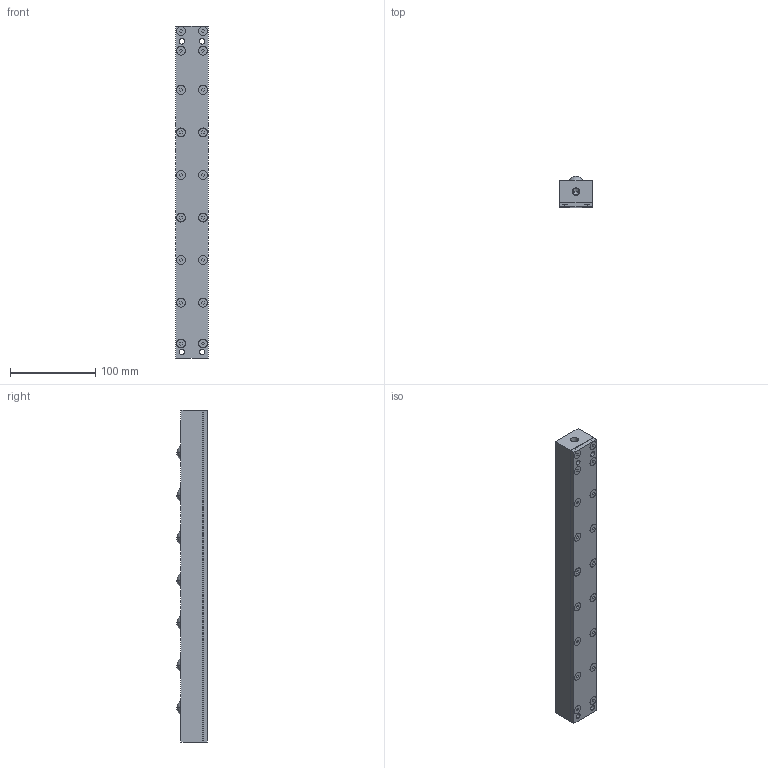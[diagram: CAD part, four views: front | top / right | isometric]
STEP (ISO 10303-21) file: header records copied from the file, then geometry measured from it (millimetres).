
FILE_DESCRIPTION (( 'STEP AP203' ), '1' );
FILE_NAME ('PVL30SL-7-P50.STEP', '2016-01-06T05:37:01', ( '' ), ( '' ), 'SwSTEP 2.0', 'SolidWorks 2013', '' );
FILE_SCHEMA (( 'CONFIG_CONTROL_DESIGN' ));
Length unit declared in the file: millimetre
Products named in the file (1): PVL30SL-7-P50
Bounding box: 38 x 36 x 390 mm (x, y, z)
Volume: 456254.7 mm3; surface area: 129847.2 mm2
Topology: 9 solids, 9 shells, 387 faces, 896 edges, 588 vertices
Faces by surface type: plane 199, cylinder 134, cone 40, sphere 14
Entity records: 11141 total; most frequent: DIRECTION 2006, CARTESIAN_POINT 1858, ORIENTED_EDGE 1764, EDGE_CURVE 882, AXIS2_PLACEMENT_3D 736, VERTEX_POINT 588, LINE 534, VECTOR 534
